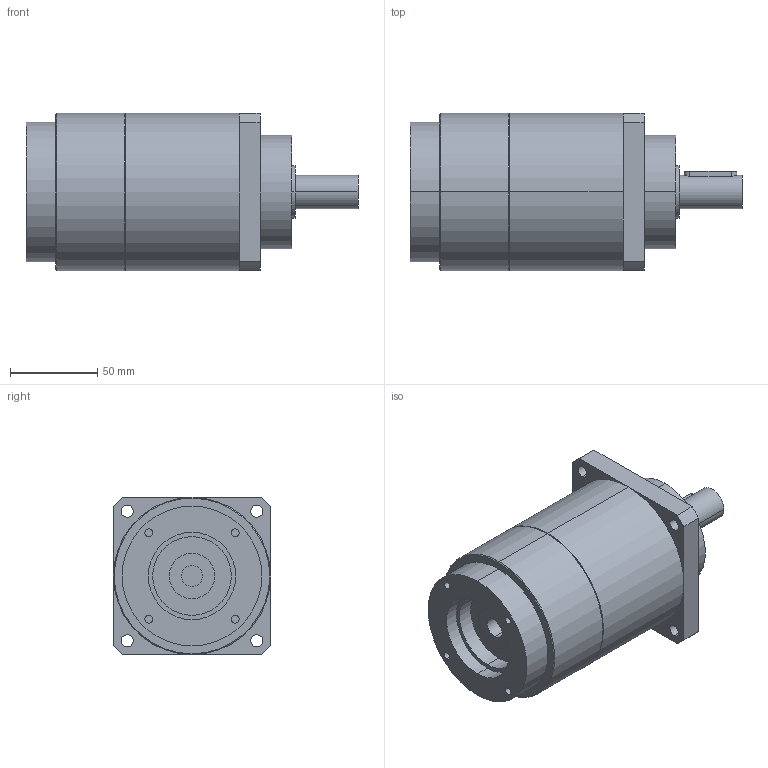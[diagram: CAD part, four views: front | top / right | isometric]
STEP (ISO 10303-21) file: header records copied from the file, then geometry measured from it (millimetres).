
FILE_DESCRIPTION(('CoCreate Modeling STEP Export'),'2;1');
FILE_NAME('GPT90_ig-9-12-16-20-25-28-35-40-50-70-100_19_B5T_12_P15.stp','2015-02-04T11:28:21',(''),(''),'CoCreate Modeling STEP processor for AP214 (Solid Model)','CoCreate Modeling 16.00C 25-Feb-2009 (C) Parametric Technology GmbH','');
FILE_SCHEMA(('AUTOMOTIVE_DESIGN { 1 0 10303 214 1 1 1 1 }'));
Length unit declared in the file: millimetre
Products named in the file (2): GPT90_ig-9-12-16-20-25-28-35-40-50-70-100_19_B5T_12_P15
Assembly tree (1 placements, depth 2):
  GPT90_ig-9-12-16-20-25-28-35-40-50-70-100_19_B5T_12_P15
    GPT90_ig-9-12-16-20-25-28-35-40-50-70-100_19_B5T_12_P15
Bounding box: 190 x 90 x 90 mm (x, y, z)
Volume: 885951.5 mm3; surface area: 66647.4 mm2
Topology: 1 solids, 1 shells, 75 faces, 191 edges, 132 vertices
Faces by surface type: cylinder 44, plane 27, cone 4
Entity records: 2393 total; most frequent: CARTESIAN_POINT 705, ORIENTED_EDGE 382, DIRECTION 282, EDGE_CURVE 191, VERTEX_POINT 132, AXIS2_PLACEMENT_3D 106, EDGE_LOOP 97, FACE_OUTER_BOUND 75
